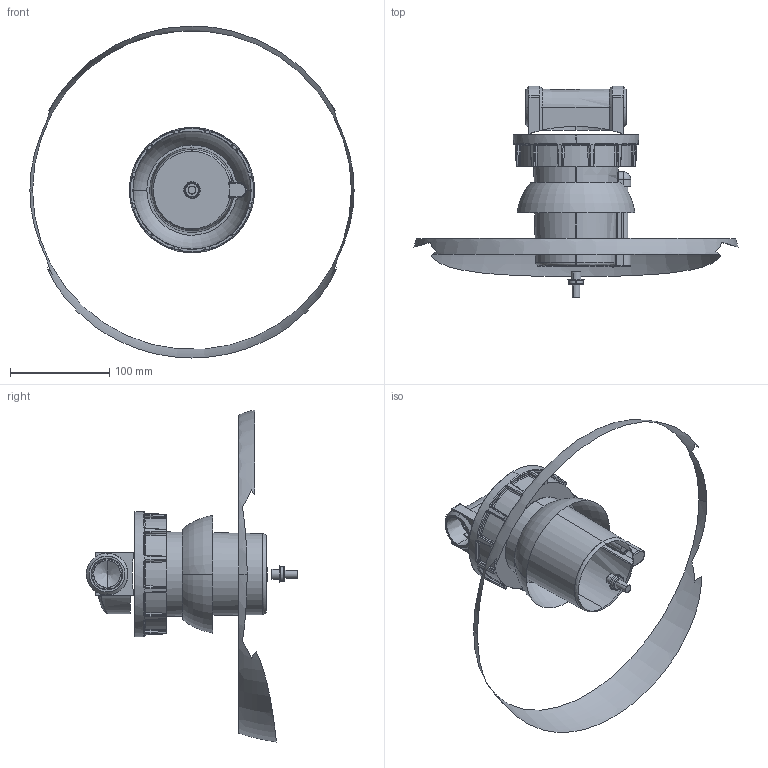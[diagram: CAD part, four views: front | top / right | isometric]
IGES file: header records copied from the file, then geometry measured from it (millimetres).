
Start section: SolidWorks IGES file using analytic representation for surfaces
Global section: file name: C:\Users\Toshiba\Desktop\F602W-08#YB#.IGS; native system: SolidWorks 2014; preprocessor: SolidWorks 2014; author: Toshiba; date: 160216.131734; units: millimetre
Bounding box: 326.46 x 213 x 334.27 mm (x, y, z)
Surface area: 119312.8 mm2 (no closed solid volume)
Topology: 0 solids, 0 shells, 345 faces, 4283 edges, 4278 vertices
Faces by surface type: bspline 219, revolution 126
